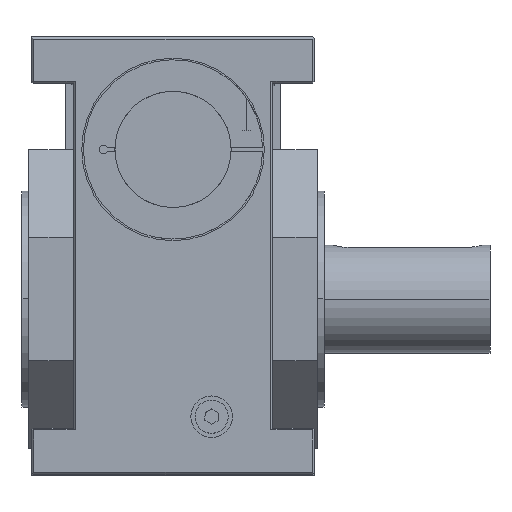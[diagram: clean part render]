
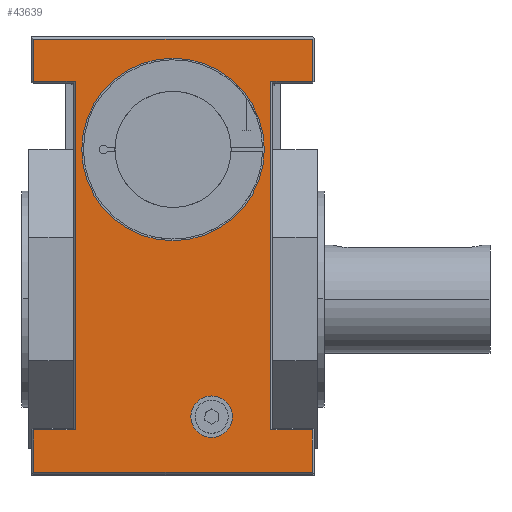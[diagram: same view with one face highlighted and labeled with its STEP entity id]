
A CAD part, top view. The second image highlights one B-rep face of the part: STEP entity #43639.
In plain terms, the highlighted planar face has unit normal (0, 0, 1).
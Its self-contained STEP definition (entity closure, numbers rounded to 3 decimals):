
#7 = VECTOR ( 'NONE', #29869, 1000. ) ;
#46 = EDGE_LOOP ( 'NONE', ( #16106, #38887 ) ) ;
#168 = CARTESIAN_POINT ( 'NONE',  ( -60., 131., 114. ) ) ;
#563 = DIRECTION ( 'NONE',  ( -1., 0., 0. ) ) ;
#618 = VERTEX_POINT ( 'NONE', #6553 ) ;
#981 = DIRECTION ( 'NONE',  ( 0., 0., 1. ) ) ;
#1133 = CARTESIAN_POINT ( 'NONE',  ( 85., 131., 114. ) ) ;
#1186 = VECTOR ( 'NONE', #14043, 1000. ) ;
#1580 = DIRECTION ( 'NONE',  ( 0., 1., 0. ) ) ;
#1727 = AXIS2_PLACEMENT_3D ( 'NONE', #28637, #25100, #18517 ) ;
#2139 = VERTEX_POINT ( 'NONE', #21001 ) ;
#3432 = VERTEX_POINT ( 'NONE', #30818 ) ;
#4324 = DIRECTION ( 'NONE',  ( 1., 0., 0. ) ) ;
#5090 = AXIS2_PLACEMENT_3D ( 'NONE', #10202, #6947, #34193 ) ;
#5502 = ORIENTED_EDGE ( 'NONE', *, *, #37355, .F. ) ;
#5872 = EDGE_CURVE ( 'NONE', #2139, #618, #5884, .T. ) ;
#5884 = LINE ( 'NONE', #20002, #29728 ) ;
#5941 = DIRECTION ( 'NONE',  ( 0., 1., 0. ) ) ;
#6210 = EDGE_CURVE ( 'NONE', #33051, #31996, #24899, .T. ) ;
#6433 = FACE_BOUND ( 'NONE', #12472, .T. ) ;
#6553 = CARTESIAN_POINT ( 'NONE',  ( -84., -104.5, 114. ) ) ;
#6755 = VECTOR ( 'NONE', #17554, 1000. ) ;
#6947 = DIRECTION ( 'NONE',  ( 0., 0., 1. ) ) ;
#6956 = VERTEX_POINT ( 'NONE', #40187 ) ;
#7913 = DIRECTION ( 'NONE',  ( 0., 1., 0. ) ) ;
#7996 = CARTESIAN_POINT ( 'NONE',  ( 59., 131., 114. ) ) ;
#8618 = VERTEX_POINT ( 'NONE', #16778 ) ;
#8646 = ORIENTED_EDGE ( 'NONE', *, *, #19674, .T. ) ;
#8875 = EDGE_CURVE ( 'NONE', #38615, #21909, #15949, .T. ) ;
#9185 = VECTOR ( 'NONE', #5941, 1000. ) ;
#10202 = CARTESIAN_POINT ( 'NONE',  ( 0., 90., 114. ) ) ;
#10392 = VERTEX_POINT ( 'NONE', #43415 ) ;
#10477 = VERTEX_POINT ( 'NONE', #13007 ) ;
#11091 = LINE ( 'NONE', #26615, #7 ) ;
#11348 = PLANE ( 'NONE',  #23491 ) ;
#11558 = EDGE_CURVE ( 'NONE', #23362, #6956, #37388, .T. ) ;
#12443 = LINE ( 'NONE', #40811, #24110 ) ;
#12472 = EDGE_LOOP ( 'NONE', ( #5502, #29769 ) ) ;
#12768 = EDGE_CURVE ( 'NONE', #8618, #10392, #21564, .T. ) ;
#12893 = CARTESIAN_POINT ( 'NONE',  ( -59., -79., 114. ) ) ;
#13007 = CARTESIAN_POINT ( 'NONE',  ( 84., -104.5, 114. ) ) ;
#13009 = DIRECTION ( 'NONE',  ( 1., 0., 0. ) ) ;
#13888 = VERTEX_POINT ( 'NONE', #36351 ) ;
#13975 = VERTEX_POINT ( 'NONE', #12893 ) ;
#14043 = DIRECTION ( 'NONE',  ( -1., 0., 0. ) ) ;
#14088 = DIRECTION ( 'NONE',  ( 0., 0., 1. ) ) ;
#14168 = VERTEX_POINT ( 'NONE', #7996 ) ;
#14601 = VECTOR ( 'NONE', #13009, 1000. ) ;
#15949 = CIRCLE ( 'NONE', #16911, 55. ) ;
#16073 = ORIENTED_EDGE ( 'NONE', *, *, #29885, .T. ) ;
#16106 = ORIENTED_EDGE ( 'NONE', *, *, #29404, .F. ) ;
#16349 = CARTESIAN_POINT ( 'NONE',  ( 84., 131., 114. ) ) ;
#16778 = CARTESIAN_POINT ( 'NONE',  ( -84., 156.5, 114. ) ) ;
#16911 = AXIS2_PLACEMENT_3D ( 'NONE', #41552, #981, #7913 ) ;
#17010 = VECTOR ( 'NONE', #18645, 1000. ) ;
#17062 = VECTOR ( 'NONE', #563, 1000. ) ;
#17403 = CARTESIAN_POINT ( 'NONE',  ( -85., -79., 114. ) ) ;
#17554 = DIRECTION ( 'NONE',  ( 0., 1., 0. ) ) ;
#17986 = EDGE_CURVE ( 'NONE', #31070, #13975, #12443, .T. ) ;
#18171 = LINE ( 'NONE', #22804, #9185 ) ;
#18517 = DIRECTION ( 'NONE',  ( 1., 0., 0. ) ) ;
#18645 = DIRECTION ( 'NONE',  ( -1., 0., 0. ) ) ;
#19431 = ORIENTED_EDGE ( 'NONE', *, *, #5872, .T. ) ;
#19548 = DIRECTION ( 'NONE',  ( 0., -1., 0. ) ) ;
#19674 = EDGE_CURVE ( 'NONE', #31996, #8618, #42525, .T. ) ;
#19717 = LINE ( 'NONE', #17403, #17062 ) ;
#20002 = CARTESIAN_POINT ( 'NONE',  ( -84., 158., 114. ) ) ;
#20573 = CARTESIAN_POINT ( 'NONE',  ( 85., -79., 114. ) ) ;
#20671 = CARTESIAN_POINT ( 'NONE',  ( 55., 90., 114. ) ) ;
#21001 = CARTESIAN_POINT ( 'NONE',  ( -84., -79., 114. ) ) ;
#21556 = DIRECTION ( 'NONE',  ( 1., 0., 0. ) ) ;
#21564 = LINE ( 'NONE', #28737, #38565 ) ;
#21884 = DIRECTION ( 'NONE',  ( 0., 1., 0. ) ) ;
#21909 = VERTEX_POINT ( 'NONE', #30843 ) ;
#22804 = CARTESIAN_POINT ( 'NONE',  ( 59., 130., 114. ) ) ;
#23074 = EDGE_CURVE ( 'NONE', #14168, #33051, #34923, .T. ) ;
#23362 = VERTEX_POINT ( 'NONE', #33348 ) ;
#23491 = AXIS2_PLACEMENT_3D ( 'NONE', #41604, #32094, #1580 ) ;
#23903 = AXIS2_PLACEMENT_3D ( 'NONE', #24643, #14088, #4324 ) ;
#24110 = VECTOR ( 'NONE', #37083, 1000. ) ;
#24274 = CARTESIAN_POINT ( 'NONE',  ( 84., -78., 114. ) ) ;
#24643 = CARTESIAN_POINT ( 'NONE',  ( 23.262, -71., 114. ) ) ;
#24899 = LINE ( 'NONE', #35389, #31256 ) ;
#25004 = ORIENTED_EDGE ( 'NONE', *, *, #23074, .T. ) ;
#25100 = DIRECTION ( 'NONE',  ( 0., 0., 1. ) ) ;
#25619 = DIRECTION ( 'NONE',  ( 0., -1., 0. ) ) ;
#26484 = VECTOR ( 'NONE', #21556, 1000. ) ;
#26615 = CARTESIAN_POINT ( 'NONE',  ( 85., -104.5, 114. ) ) ;
#26923 = LINE ( 'NONE', #168, #14601 ) ;
#28537 = EDGE_CURVE ( 'NONE', #13975, #2139, #19717, .T. ) ;
#28637 = CARTESIAN_POINT ( 'NONE',  ( 23.262, -71., 114. ) ) ;
#28712 = CARTESIAN_POINT ( 'NONE',  ( -59., 131., 114. ) ) ;
#28737 = CARTESIAN_POINT ( 'NONE',  ( -84., 158., 114. ) ) ;
#28905 = ORIENTED_EDGE ( 'NONE', *, *, #32771, .T. ) ;
#29277 = LINE ( 'NONE', #20573, #1186 ) ;
#29404 = EDGE_CURVE ( 'NONE', #21909, #38615, #38752, .T. ) ;
#29532 = EDGE_LOOP ( 'NONE', ( #25004, #40578, #8646, #39749, #36642, #42144, #32041, #19431, #16073, #28905, #31710, #36833 ) ) ;
#29728 = VECTOR ( 'NONE', #19548, 1000. ) ;
#29769 = ORIENTED_EDGE ( 'NONE', *, *, #11558, .F. ) ;
#29869 = DIRECTION ( 'NONE',  ( 1., 0., 0. ) ) ;
#29885 = EDGE_CURVE ( 'NONE', #618, #10477, #11091, .T. ) ;
#30725 = EDGE_CURVE ( 'NONE', #13888, #14168, #18171, .T. ) ;
#30818 = CARTESIAN_POINT ( 'NONE',  ( 84., -79., 114. ) ) ;
#30843 = CARTESIAN_POINT ( 'NONE',  ( -55., 90., 114. ) ) ;
#31070 = VERTEX_POINT ( 'NONE', #28712 ) ;
#31256 = VECTOR ( 'NONE', #21884, 1000. ) ;
#31710 = ORIENTED_EDGE ( 'NONE', *, *, #34549, .T. ) ;
#31996 = VERTEX_POINT ( 'NONE', #33656 ) ;
#32041 = ORIENTED_EDGE ( 'NONE', *, *, #28537, .T. ) ;
#32094 = DIRECTION ( 'NONE',  ( 0., 0., -1. ) ) ;
#32309 = CIRCLE ( 'NONE', #1727, 12.5 ) ;
#32386 = FACE_OUTER_BOUND ( 'NONE', #29532, .T. ) ;
#32669 = EDGE_CURVE ( 'NONE', #10392, #31070, #26923, .T. ) ;
#32771 = EDGE_CURVE ( 'NONE', #10477, #3432, #39627, .T. ) ;
#33051 = VERTEX_POINT ( 'NONE', #16349 ) ;
#33348 = CARTESIAN_POINT ( 'NONE',  ( 10.762, -71., 114. ) ) ;
#33656 = CARTESIAN_POINT ( 'NONE',  ( 84., 156.5, 114. ) ) ;
#34193 = DIRECTION ( 'NONE',  ( 0., 1., 0. ) ) ;
#34549 = EDGE_CURVE ( 'NONE', #3432, #13888, #29277, .T. ) ;
#34923 = LINE ( 'NONE', #1133, #26484 ) ;
#35389 = CARTESIAN_POINT ( 'NONE',  ( 84., 156.5, 114. ) ) ;
#36351 = CARTESIAN_POINT ( 'NONE',  ( 59., -79., 114. ) ) ;
#36642 = ORIENTED_EDGE ( 'NONE', *, *, #32669, .T. ) ;
#36833 = ORIENTED_EDGE ( 'NONE', *, *, #30725, .T. ) ;
#37083 = DIRECTION ( 'NONE',  ( 0., -1., 0. ) ) ;
#37355 = EDGE_CURVE ( 'NONE', #6956, #23362, #32309, .T. ) ;
#37388 = CIRCLE ( 'NONE', #23903, 12.5 ) ;
#37715 = FACE_BOUND ( 'NONE', #46, .T. ) ;
#38565 = VECTOR ( 'NONE', #25619, 1000. ) ;
#38615 = VERTEX_POINT ( 'NONE', #20671 ) ;
#38752 = CIRCLE ( 'NONE', #5090, 55. ) ;
#38887 = ORIENTED_EDGE ( 'NONE', *, *, #8875, .F. ) ;
#39627 = LINE ( 'NONE', #24274, #6755 ) ;
#39749 = ORIENTED_EDGE ( 'NONE', *, *, #12768, .T. ) ;
#40187 = CARTESIAN_POINT ( 'NONE',  ( 35.762, -71., 114. ) ) ;
#40578 = ORIENTED_EDGE ( 'NONE', *, *, #6210, .T. ) ;
#40811 = CARTESIAN_POINT ( 'NONE',  ( -59., -78., 114. ) ) ;
#41552 = CARTESIAN_POINT ( 'NONE',  ( 0., 90., 114. ) ) ;
#41604 = CARTESIAN_POINT ( 'NONE',  ( 85., 158., 114. ) ) ;
#42123 = CARTESIAN_POINT ( 'NONE',  ( 85., 156.5, 114. ) ) ;
#42144 = ORIENTED_EDGE ( 'NONE', *, *, #17986, .T. ) ;
#42525 = LINE ( 'NONE', #42123, #17010 ) ;
#43415 = CARTESIAN_POINT ( 'NONE',  ( -84., 131., 114. ) ) ;
#43639 = ADVANCED_FACE ( 'NONE', ( #37715, #6433, #32386 ), #11348, .F. ) ;
